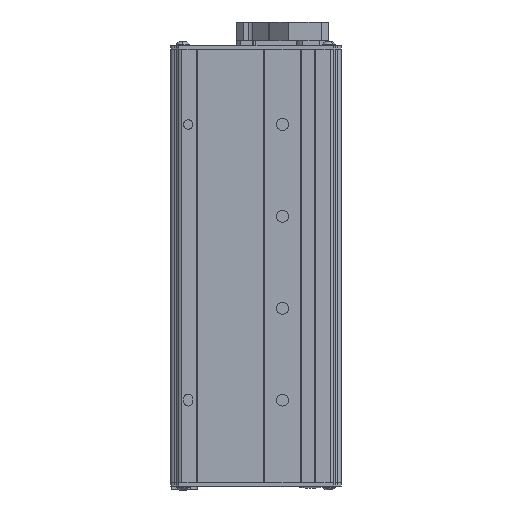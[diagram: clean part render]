
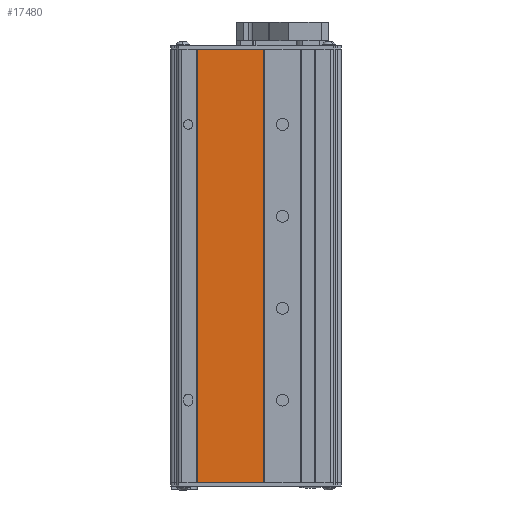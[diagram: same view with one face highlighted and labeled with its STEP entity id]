
A CAD part, front view. The second image highlights one B-rep face of the part: STEP entity #17480.
In plain terms, the highlighted planar face has unit normal (0, -1, 0) as drawn and (0, 0, -1) by its records, which use the part's own axes.
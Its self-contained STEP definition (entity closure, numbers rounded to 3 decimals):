
#1099 = VERTEX_POINT ( 'NONE', #5743 ) ;
#1506 = LINE ( 'NONE', #10390, #5452 ) ;
#1697 = EDGE_CURVE ( 'NONE', #9720, #20425, #20699, .T. ) ;
#1892 = DIRECTION ( 'NONE',  ( -1., 0., 0. ) ) ;
#1958 = DIRECTION ( 'NONE',  ( 1., 0., 0. ) ) ;
#2715 = VECTOR ( 'NONE', #4362, 1000. ) ;
#4284 = LINE ( 'NONE', #18863, #8792 ) ;
#4362 = DIRECTION ( 'NONE',  ( 0., 1., 0. ) ) ;
#5452 = VECTOR ( 'NONE', #1958, 1000. ) ;
#5743 = CARTESIAN_POINT ( 'NONE',  ( -92., 3.25, 0.5 ) ) ;
#6313 = EDGE_LOOP ( 'NONE', ( #6408, #9593, #16817, #10386 ) ) ;
#6408 = ORIENTED_EDGE ( 'NONE', *, *, #1697, .F. ) ;
#6439 = CARTESIAN_POINT ( 'NONE',  ( -92., -24.95, 0.5 ) ) ;
#6467 = DIRECTION ( 'NONE',  ( 0., 0., 1. ) ) ;
#6929 = EDGE_CURVE ( 'NONE', #9720, #16385, #16618, .T. ) ;
#8173 = VECTOR ( 'NONE', #1892, 1000. ) ;
#8748 = DIRECTION ( 'NONE',  ( 0., 1., 0. ) ) ;
#8792 = VECTOR ( 'NONE', #8748, 1000. ) ;
#9593 = ORIENTED_EDGE ( 'NONE', *, *, #6929, .T. ) ;
#9720 = VERTEX_POINT ( 'NONE', #12660 ) ;
#9844 = PLANE ( 'NONE',  #10695 ) ;
#10386 = ORIENTED_EDGE ( 'NONE', *, *, #16588, .T. ) ;
#10390 = CARTESIAN_POINT ( 'NONE',  ( 92., 3.25, 0.5 ) ) ;
#10695 = AXIS2_PLACEMENT_3D ( 'NONE', #16601, #6467, #18281 ) ;
#10913 = CARTESIAN_POINT ( 'NONE',  ( 92., 3.75, 0.5 ) ) ;
#12103 = FACE_OUTER_BOUND ( 'NONE', #6313, .T. ) ;
#12660 = CARTESIAN_POINT ( 'NONE',  ( 92., -24.95, 0.5 ) ) ;
#13719 = CARTESIAN_POINT ( 'NONE',  ( -92., -24.95, 0.5 ) ) ;
#15109 = CARTESIAN_POINT ( 'NONE',  ( 92., 3.25, 0.5 ) ) ;
#16385 = VERTEX_POINT ( 'NONE', #6439 ) ;
#16588 = EDGE_CURVE ( 'NONE', #1099, #20425, #1506, .T. ) ;
#16601 = CARTESIAN_POINT ( 'NONE',  ( 92., 3.75, 0.5 ) ) ;
#16618 = LINE ( 'NONE', #13719, #8173 ) ;
#16817 = ORIENTED_EDGE ( 'NONE', *, *, #20501, .T. ) ;
#17480 = ADVANCED_FACE ( 'NONE', ( #12103 ), #9844, .F. ) ;
#18281 = DIRECTION ( 'NONE',  ( 0., -1., 0. ) ) ;
#18863 = CARTESIAN_POINT ( 'NONE',  ( -92., 3.75, 0.5 ) ) ;
#20425 = VERTEX_POINT ( 'NONE', #15109 ) ;
#20501 = EDGE_CURVE ( 'NONE', #16385, #1099, #4284, .T. ) ;
#20699 = LINE ( 'NONE', #10913, #2715 ) ;
